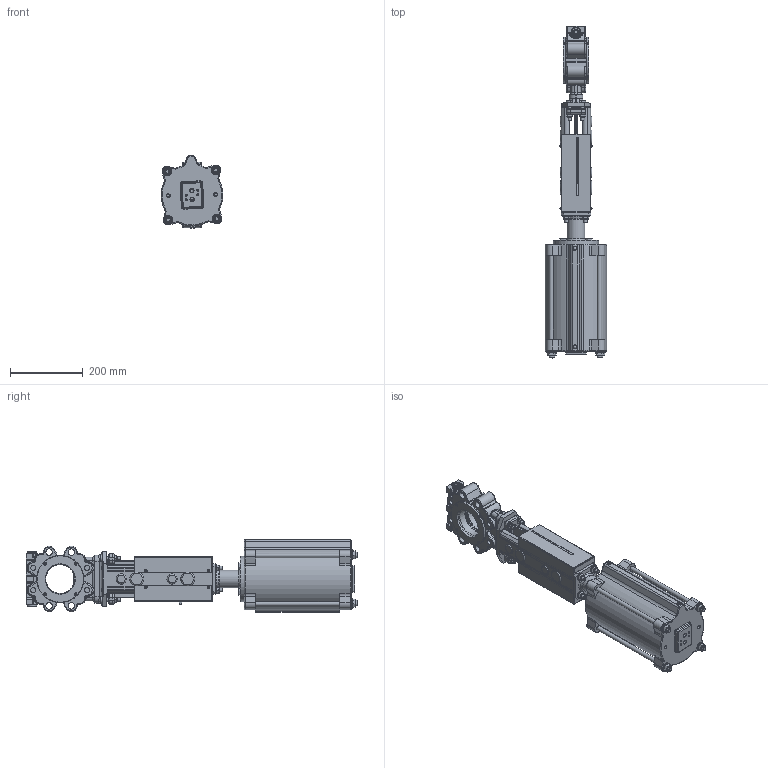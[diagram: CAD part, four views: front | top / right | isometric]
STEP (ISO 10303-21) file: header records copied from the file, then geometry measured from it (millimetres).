
FILE_DESCRIPTION(/* description */ (''),/* implementation_level */ '2;1');
FILE_NAME(/* name */ 'F:\3D-block färdiga för export\SLV-SLF\DN 80\SLV-DN80-PN10-FRSC160-140_.stp',/* time_stamp */ '2020-12-16T09:32:53+01:00',/* author */ ('MATZET'),/* organization */ (''),/* preprocessor_version */ 'ST-DEVELOPER v18',/* originating_system */ 'Autodesk Inventor 2020',/* authorisation */ '');
FILE_SCHEMA (('AUTOMOTIVE_DESIGN { 1 0 10303 214 3 1 1 }'));
Products named in the file (1): SLV-DN80-PN10-FRSC160-140_
Bounding box: 169.94 x 912.5 x 198.73 mm (x, y, z)
Volume: 4381095.3 mm3; surface area: 1307390.6 mm2
Topology: 1 solids, 1 shells, 2751 faces, 7081 edges, 4408 vertices
Faces by surface type: plane 1040, cylinder 743, torus 307, cone 298, bspline 281, sphere 82
Full cylindrical faces by diameter (mm): 2 x8, 4 x14, 4.134 x4, 4.2 x16, 4.5 x4, 5 x8, 6 x1, 6.75 x6, 7 x8, 8 x10, 8.376 x2, 8.4 x4, 8.88 x1, 9 x2, 9.5 x4, 10 x23, 10.5 x4, 11 x4, 11.445 x2, 12 x10, 13 x7, 14 x12, 14.63 x4, 15 x4, 15.5 x1, 16 x6, 17.7 x1, 18 x12, 20 x8, 21 x2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
Entity records: 111860 total; most frequent: CARTESIAN_POINT 43292, DIRECTION 14181, ORIENTED_EDGE 13988, EDGE_CURVE 6994, AXIS2_PLACEMENT_3D 5904, VERTEX_POINT 4408, CIRCLE 3116, EDGE_LOOP 3042
